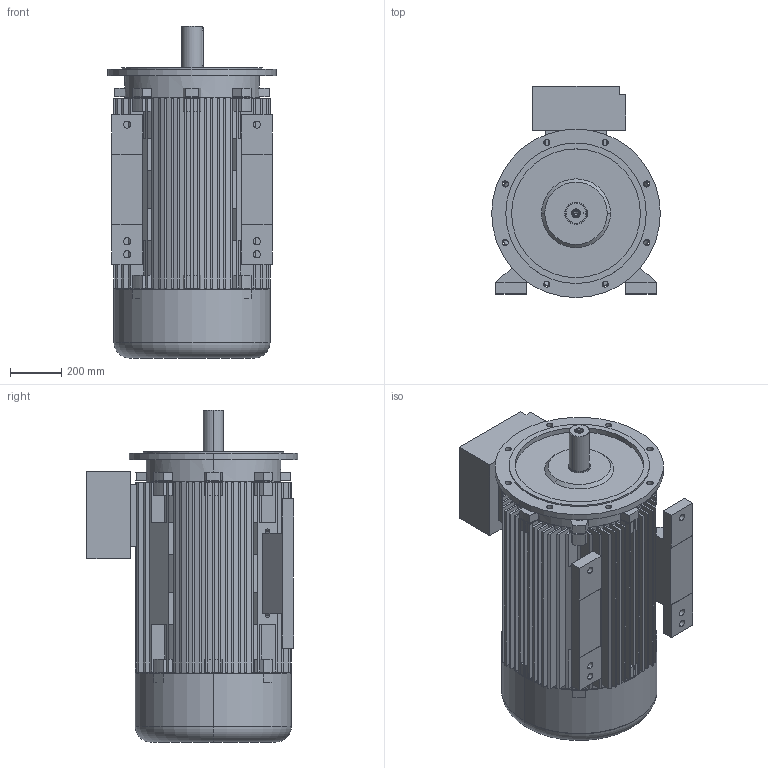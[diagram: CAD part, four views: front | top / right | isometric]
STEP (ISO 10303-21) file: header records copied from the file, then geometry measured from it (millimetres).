
FILE_DESCRIPTION (( 'STEP AP203' ), '1' );
FILE_NAME ('20.17516_C 7AT 315L - 4, -6,-8 B35 Exde STANDK.STEP', '2018-05-21T12:09:51', ( '' ), ( '' ), 'SwSTEP 2.0', 'SolidWorks 2017', '' );
FILE_SCHEMA (( 'CONFIG_CONTROL_DESIGN' ));
Length unit declared in the file: millimetre
Products named in the file (1): 20.17516_C 7AT 315L - 4, -6,-8 B35 Exde STANDK
Bounding box: 660 x 827 x 1300 mm (x, y, z)
Volume: 111888384.1 mm3; surface area: 11738607.3 mm2
Topology: 8 solids, 8 shells, 855 faces, 2298 edges, 1523 vertices
Faces by surface type: plane 681, cylinder 143, cone 18, bspline 9, torus 4
Entity records: 26956 total; most frequent: CARTESIAN_POINT 4992, ORIENTED_EDGE 4592, DIRECTION 4476, EDGE_CURVE 2296, VECTOR 1726, LINE 1726, VERTEX_POINT 1523, AXIS2_PLACEMENT_3D 1375
